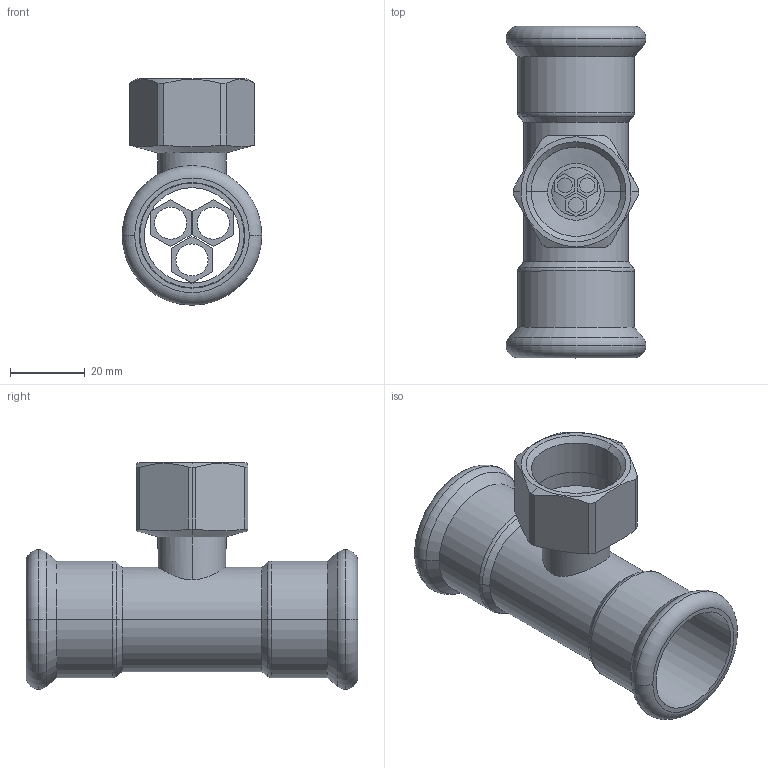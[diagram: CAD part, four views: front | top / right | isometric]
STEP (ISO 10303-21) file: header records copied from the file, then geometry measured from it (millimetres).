
FILE_DESCRIPTION(('OneSpaceDesigner STEP Export'),'2;1');
FILE_NAME('R2718 28xRp3-4x28.stp','2010-06-10T10:04:15',(''),(''),'OneSpace Designer STEP processor for AP214 (Solid Model)','OneSpace Modeling 15.00A 14-Mar-2007 (C) CoCreate Software GmbH','');
FILE_SCHEMA(('AUTOMOTIVE_DESIGN { 1 0 10303 214 1 1 1 1 }'));
Length unit declared in the file: millimetre
Products named in the file (2): R2718_28xRp3-4x28
Assembly tree (1 placements, depth 2):
  R2718_28xRp3-4x28
    R2718_28xRp3-4x28
Bounding box: 37.45 x 89 x 60.73 mm (x, y, z)
Volume: 22280.4 mm3; surface area: 24548.4 mm2
Topology: 1 solids, 1 shells, 190 faces, 479 edges, 306 vertices
Faces by surface type: plane 94, cylinder 64, cone 20, torus 12
Entity records: 6812 total; most frequent: CARTESIAN_POINT 2585, ORIENTED_EDGE 958, DIRECTION 741, EDGE_CURVE 479, VERTEX_POINT 306, VECTOR 287, LINE 287, AXIS2_PLACEMENT_3D 227
